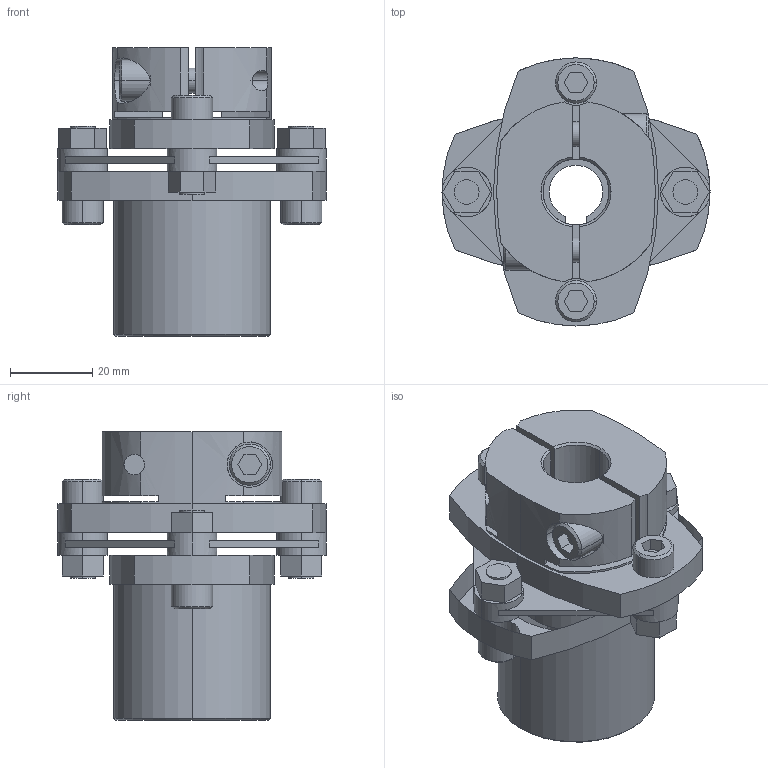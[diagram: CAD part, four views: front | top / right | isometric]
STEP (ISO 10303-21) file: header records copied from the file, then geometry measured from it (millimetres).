
FILE_DESCRIPTION((''),'2;1');
FILE_NAME('LCS-65M-16L亊16B.stp','2011-08-20T15:58:12',(''),(''),'AutoCAD STEP 2000i','AutoCAD 2000i',', , ');
FILE_SCHEMA(('CONFIG_CONTROL_DESIGN'));
Length unit declared in the file: millimetre
Products named in the file (8): LCS-65M-16L×16B; 忣兜1; LC65-B016; LC65M-L016; LC65M-L011; LC65-B014-1; LC65-B014; LCS65-ITA
Assembly tree (7 placements, depth 2):
  LCS-65M-16L×16B
    忣兜1
    LC65-B016
    LC65M-L016
    LC65M-L011
    LC65-B014-1
    LC65-B014
    LCS65-ITA
Bounding box: 65 x 65 x 70 mm (x, y, z)
Volume: 82898.2 mm3; surface area: 29446.2 mm2
Topology: 1 solids, 1 shells, 222 faces, 582 edges, 380 vertices
Faces by surface type: plane 115, cylinder 84, cone 23
Entity records: 7357 total; most frequent: CARTESIAN_POINT 1500, DIRECTION 1244, ORIENTED_EDGE 1164, EDGE_CURVE 582, AXIS2_PLACEMENT_3D 454, VERTEX_POINT 380, VECTOR 336, LINE 336
